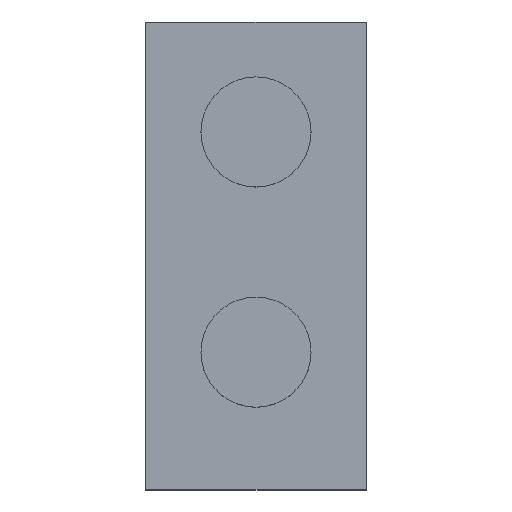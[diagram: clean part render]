
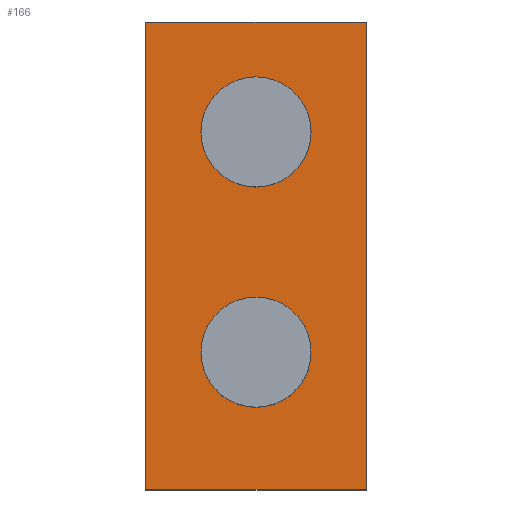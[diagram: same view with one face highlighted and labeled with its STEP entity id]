
A CAD part, top view. The second image highlights one B-rep face of the part: STEP entity #166.
In plain terms, the highlighted planar face has unit normal (0, 0, 1).
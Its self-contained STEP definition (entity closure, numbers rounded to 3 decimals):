
#166 = ADVANCED_FACE('',(#167),#201,.T.);
#167 = FACE_BOUND('',#168,.T.);
#168 = EDGE_LOOP('',(#169,#179,#187,#195));
#169 = ORIENTED_EDGE('',*,*,#170,.T.);
#170 = EDGE_CURVE('',#171,#173,#175,.T.);
#171 = VERTEX_POINT('',#172);
#172 = CARTESIAN_POINT('',(-40.,-85.,
    3.));
#173 = VERTEX_POINT('',#174);
#174 = CARTESIAN_POINT('',(40.,-85.,
    3.));
#175 = LINE('',#176,#177);
#176 = CARTESIAN_POINT('',(-40.,-85.,
    3.));
#177 = VECTOR('',#178,1.);
#178 = DIRECTION('',(1.,0.,0.));
#179 = ORIENTED_EDGE('',*,*,#180,.T.);
#180 = EDGE_CURVE('',#173,#181,#183,.T.);
#181 = VERTEX_POINT('',#182);
#182 = CARTESIAN_POINT('',(40.,85.,
    3.));
#183 = LINE('',#184,#185);
#184 = CARTESIAN_POINT('',(40.,-85.,
    3.));
#185 = VECTOR('',#186,1.);
#186 = DIRECTION('',(0.,1.,0.));
#187 = ORIENTED_EDGE('',*,*,#188,.T.);
#188 = EDGE_CURVE('',#181,#189,#191,.T.);
#189 = VERTEX_POINT('',#190);
#190 = CARTESIAN_POINT('',(-40.,85.,
    3.));
#191 = LINE('',#192,#193);
#192 = CARTESIAN_POINT('',(40.,85.,
    3.));
#193 = VECTOR('',#194,1.);
#194 = DIRECTION('',(-1.,0.,0.));
#195 = ORIENTED_EDGE('',*,*,#196,.T.);
#196 = EDGE_CURVE('',#189,#171,#197,.T.);
#197 = LINE('',#198,#199);
#198 = CARTESIAN_POINT('',(-40.,85.,
    3.));
#199 = VECTOR('',#200,1.);
#200 = DIRECTION('',(0.,-1.,0.));
#201 = PLANE('',#202);
#202 = AXIS2_PLACEMENT_3D('',#203,#204,#205);
#203 = CARTESIAN_POINT('',(1145.088,-85.,
    3.));
#204 = DIRECTION('',(0.,0.,1.));
#205 = DIRECTION('',(1.,0.,-0.));
